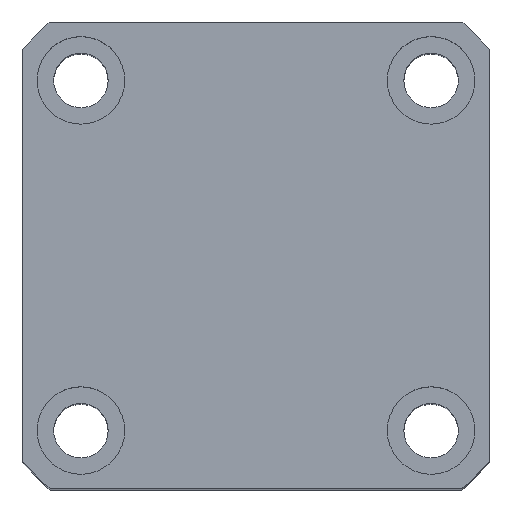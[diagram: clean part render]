
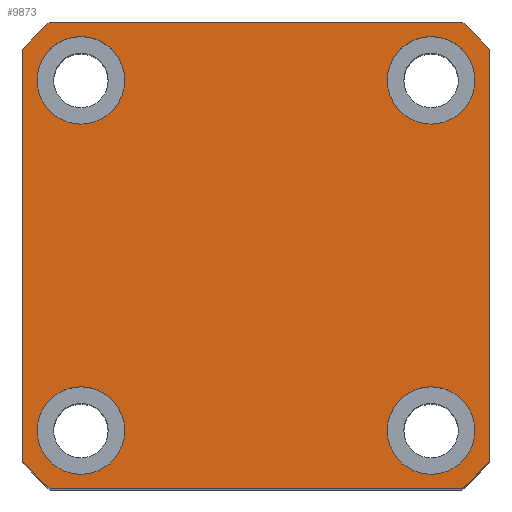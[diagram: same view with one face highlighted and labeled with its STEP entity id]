
A CAD part, top view. The second image highlights one B-rep face of the part: STEP entity #9873.
In plain terms, the highlighted planar face has unit normal (0, 0, 1) as drawn and (1, 0, 0) by its records, which use the part's own axes.
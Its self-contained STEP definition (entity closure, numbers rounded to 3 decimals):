
#243 = VERTEX_POINT ( 'NONE', #9890 ) ;
#287 = DIRECTION ( 'NONE',  ( 0., 0., -1. ) ) ;
#291 = DIRECTION ( 'NONE',  ( 0., 0., -1. ) ) ;
#301 = LINE ( 'NONE', #5233, #2763 ) ;
#485 = EDGE_CURVE ( 'NONE', #8120, #2723, #1912, .T. ) ;
#510 = DIRECTION ( 'NONE',  ( 0., 0., -1. ) ) ;
#535 = DIRECTION ( 'NONE',  ( 1., 0., 0. ) ) ;
#569 = CARTESIAN_POINT ( 'NONE',  ( 65., 0., 0. ) ) ;
#718 = CARTESIAN_POINT ( 'NONE',  ( 65., 0., 0. ) ) ;
#775 = DIRECTION ( 'NONE',  ( 1., 0., 0. ) ) ;
#791 = VERTEX_POINT ( 'NONE', #6005 ) ;
#851 = LINE ( 'NONE', #9205, #6912 ) ;
#1116 = FACE_BOUND ( 'NONE', #9369, .T. ) ;
#1252 = CIRCLE ( 'NONE', #2828, 32. ) ;
#1346 = CARTESIAN_POINT ( 'NONE',  ( 65., -18., -18. ) ) ;
#1374 = AXIS2_PLACEMENT_3D ( 'NONE', #7546, #2624, #8386 ) ;
#1424 = VECTOR ( 'NONE', #3451, 1000. ) ;
#1518 = VERTEX_POINT ( 'NONE', #4589 ) ;
#1549 = DIRECTION ( 'NONE',  ( 0., 0., -1. ) ) ;
#1581 = EDGE_CURVE ( 'NONE', #7810, #8371, #1252, .T. ) ;
#1646 = CARTESIAN_POINT ( 'NONE',  ( 65., 0., 0. ) ) ;
#1681 = DIRECTION ( 'NONE',  ( 0., 1., 0. ) ) ;
#1723 = CARTESIAN_POINT ( 'NONE',  ( 65., 24., -21.166 ) ) ;
#1795 = VERTEX_POINT ( 'NONE', #3262 ) ;
#1806 = ORIENTED_EDGE ( 'NONE', *, *, #7881, .F. ) ;
#1900 = EDGE_CURVE ( 'NONE', #6026, #6029, #5456, .T. ) ;
#1912 = CIRCLE ( 'NONE', #5257, 4.5 ) ;
#1930 = PLANE ( 'NONE',  #8015 ) ;
#2079 = CARTESIAN_POINT ( 'NONE',  ( 65., -18., -13.5 ) ) ;
#2192 = DIRECTION ( 'NONE',  ( 0., 0., -1. ) ) ;
#2307 = VERTEX_POINT ( 'NONE', #8424 ) ;
#2448 = CARTESIAN_POINT ( 'NONE',  ( 65., -18., -18. ) ) ;
#2492 = DIRECTION ( 'NONE',  ( 0., 0., -1. ) ) ;
#2541 = CARTESIAN_POINT ( 'NONE',  ( 65., 18., 13.5 ) ) ;
#2624 = DIRECTION ( 'NONE',  ( 1., 0., 0. ) ) ;
#2680 = CIRCLE ( 'NONE', #1374, 4.5 ) ;
#2723 = VERTEX_POINT ( 'NONE', #9774 ) ;
#2763 = VECTOR ( 'NONE', #9393, 1000. ) ;
#2828 = AXIS2_PLACEMENT_3D ( 'NONE', #569, #535, #510 ) ;
#3150 = ORIENTED_EDGE ( 'NONE', *, *, #6594, .T. ) ;
#3262 = CARTESIAN_POINT ( 'NONE',  ( 65., 18., -22.5 ) ) ;
#3265 = DIRECTION ( 'NONE',  ( 0., 0., -1. ) ) ;
#3289 = FACE_BOUND ( 'NONE', #6603, .T. ) ;
#3409 = EDGE_LOOP ( 'NONE', ( #6743, #6595 ) ) ;
#3451 = DIRECTION ( 'NONE',  ( 0., -1., 0. ) ) ;
#3536 = ORIENTED_EDGE ( 'NONE', *, *, #4302, .T. ) ;
#3586 = CARTESIAN_POINT ( 'NONE',  ( 65., 0., 0. ) ) ;
#3800 = EDGE_CURVE ( 'NONE', #5328, #2307, #9900, .T. ) ;
#3934 = EDGE_CURVE ( 'NONE', #2307, #791, #7422, .T. ) ;
#3970 = CARTESIAN_POINT ( 'NONE',  ( 65., 18., -18. ) ) ;
#3999 = EDGE_CURVE ( 'NONE', #6439, #7810, #851, .T. ) ;
#4302 = EDGE_CURVE ( 'NONE', #9144, #4486, #8598, .T. ) ;
#4313 = ORIENTED_EDGE ( 'NONE', *, *, #3999, .T. ) ;
#4394 = DIRECTION ( 'NONE',  ( 0., 0., -1. ) ) ;
#4486 = VERTEX_POINT ( 'NONE', #9034 ) ;
#4589 = CARTESIAN_POINT ( 'NONE',  ( 65., 18., -13.5 ) ) ;
#4695 = CARTESIAN_POINT ( 'NONE',  ( 65., 21.166, 24. ) ) ;
#4717 = VERTEX_POINT ( 'NONE', #2079 ) ;
#4772 = DIRECTION ( 'NONE',  ( 0., 0., -1. ) ) ;
#4832 = AXIS2_PLACEMENT_3D ( 'NONE', #1646, #7418, #2492 ) ;
#4861 = DIRECTION ( 'NONE',  ( 0., 0., -1. ) ) ;
#4915 = ORIENTED_EDGE ( 'NONE', *, *, #6852, .T. ) ;
#4933 = DIRECTION ( 'NONE',  ( 1., 0., 0. ) ) ;
#4966 = CARTESIAN_POINT ( 'NONE',  ( 65., 18., 18. ) ) ;
#5015 = CARTESIAN_POINT ( 'NONE',  ( 65., 24., -24. ) ) ;
#5020 = CIRCLE ( 'NONE', #9736, 32. ) ;
#5185 = DIRECTION ( 'NONE',  ( 1., 0., 0. ) ) ;
#5190 = DIRECTION ( 'NONE',  ( 1., 0., 0. ) ) ;
#5233 = CARTESIAN_POINT ( 'NONE',  ( 65., -24., 24. ) ) ;
#5257 = AXIS2_PLACEMENT_3D ( 'NONE', #4966, #4933, #4861 ) ;
#5328 = VERTEX_POINT ( 'NONE', #8413 ) ;
#5441 = FACE_BOUND ( 'NONE', #3409, .T. ) ;
#5456 = CIRCLE ( 'NONE', #8340, 4.5 ) ;
#5498 = CIRCLE ( 'NONE', #9671, 4.5 ) ;
#5562 = ORIENTED_EDGE ( 'NONE', *, *, #9705, .F. ) ;
#5673 = CARTESIAN_POINT ( 'NONE',  ( 65., 0., 0. ) ) ;
#5699 = FACE_BOUND ( 'NONE', #10157, .T. ) ;
#5964 = ORIENTED_EDGE ( 'NONE', *, *, #485, .F. ) ;
#6005 = CARTESIAN_POINT ( 'NONE',  ( 65., 21.166, -24. ) ) ;
#6026 = VERTEX_POINT ( 'NONE', #7836 ) ;
#6029 = VERTEX_POINT ( 'NONE', #8679 ) ;
#6089 = ORIENTED_EDGE ( 'NONE', *, *, #9558, .F. ) ;
#6101 = CIRCLE ( 'NONE', #10046, 4.5 ) ;
#6183 = CARTESIAN_POINT ( 'NONE',  ( 65., 24., 21.166 ) ) ;
#6329 = CARTESIAN_POINT ( 'NONE',  ( 65., -21.166, 24. ) ) ;
#6400 = DIRECTION ( 'NONE',  ( 0., 0., -1. ) ) ;
#6432 = DIRECTION ( 'NONE',  ( 1., 0., 0. ) ) ;
#6439 = VERTEX_POINT ( 'NONE', #1723 ) ;
#6454 = DIRECTION ( 'NONE',  ( 1., 0., 0. ) ) ;
#6459 = ORIENTED_EDGE ( 'NONE', *, *, #7632, .F. ) ;
#6516 = DIRECTION ( 'NONE',  ( 0., 0., -1. ) ) ;
#6523 = AXIS2_PLACEMENT_3D ( 'NONE', #3970, #9764, #4772 ) ;
#6594 = EDGE_CURVE ( 'NONE', #4486, #5328, #301, .T. ) ;
#6595 = ORIENTED_EDGE ( 'NONE', *, *, #1900, .F. ) ;
#6603 = EDGE_LOOP ( 'NONE', ( #1806, #9364 ) ) ;
#6702 = CIRCLE ( 'NONE', #10444, 4.5 ) ;
#6743 = ORIENTED_EDGE ( 'NONE', *, *, #10121, .F. ) ;
#6852 = EDGE_CURVE ( 'NONE', #791, #6439, #5020, .T. ) ;
#6864 = EDGE_CURVE ( 'NONE', #4717, #243, #7237, .T. ) ;
#6912 = VECTOR ( 'NONE', #10050, 1000. ) ;
#7110 = DIRECTION ( 'NONE',  ( 1., 0., 0. ) ) ;
#7145 = CARTESIAN_POINT ( 'NONE',  ( 65., -18., 18. ) ) ;
#7237 = CIRCLE ( 'NONE', #8620, 4.5 ) ;
#7261 = ORIENTED_EDGE ( 'NONE', *, *, #3934, .T. ) ;
#7418 = DIRECTION ( 'NONE',  ( 1., 0., 0. ) ) ;
#7422 = LINE ( 'NONE', #5015, #9385 ) ;
#7525 = EDGE_CURVE ( 'NONE', #8371, #9144, #7756, .T. ) ;
#7546 = CARTESIAN_POINT ( 'NONE',  ( 65., 18., 18. ) ) ;
#7632 = EDGE_CURVE ( 'NONE', #1518, #1795, #6702, .T. ) ;
#7756 = LINE ( 'NONE', #9230, #1424 ) ;
#7810 = VERTEX_POINT ( 'NONE', #6183 ) ;
#7836 = CARTESIAN_POINT ( 'NONE',  ( 65., -18., 22.5 ) ) ;
#7881 = EDGE_CURVE ( 'NONE', #243, #4717, #5498, .T. ) ;
#8015 = AXIS2_PLACEMENT_3D ( 'NONE', #3586, #9370, #4394 ) ;
#8120 = VERTEX_POINT ( 'NONE', #2541 ) ;
#8212 = DIRECTION ( 'NONE',  ( 1., 0., 0. ) ) ;
#8340 = AXIS2_PLACEMENT_3D ( 'NONE', #7145, #6432, #6400 ) ;
#8371 = VERTEX_POINT ( 'NONE', #4695 ) ;
#8386 = DIRECTION ( 'NONE',  ( 0., 0., -1. ) ) ;
#8413 = CARTESIAN_POINT ( 'NONE',  ( 65., -24., -21.166 ) ) ;
#8424 = CARTESIAN_POINT ( 'NONE',  ( 65., -21.166, -24. ) ) ;
#8598 = CIRCLE ( 'NONE', #4832, 32. ) ;
#8620 = AXIS2_PLACEMENT_3D ( 'NONE', #2448, #8212, #3265 ) ;
#8679 = CARTESIAN_POINT ( 'NONE',  ( 65., -18., 13.5 ) ) ;
#8759 = EDGE_LOOP ( 'NONE', ( #7261, #4915, #4313, #10644, #9871, #3536, #3150, #8955 ) ) ;
#8955 = ORIENTED_EDGE ( 'NONE', *, *, #3800, .T. ) ;
#8956 = AXIS2_PLACEMENT_3D ( 'NONE', #718, #6454, #1549 ) ;
#9034 = CARTESIAN_POINT ( 'NONE',  ( 65., -24., 21.166 ) ) ;
#9144 = VERTEX_POINT ( 'NONE', #6329 ) ;
#9205 = CARTESIAN_POINT ( 'NONE',  ( 65., 24., 24. ) ) ;
#9230 = CARTESIAN_POINT ( 'NONE',  ( 65., 24., 24. ) ) ;
#9364 = ORIENTED_EDGE ( 'NONE', *, *, #6864, .F. ) ;
#9369 = EDGE_LOOP ( 'NONE', ( #5964, #5562 ) ) ;
#9370 = DIRECTION ( 'NONE',  ( 1., 0., 0. ) ) ;
#9385 = VECTOR ( 'NONE', #1681, 1000. ) ;
#9393 = DIRECTION ( 'NONE',  ( 0., 0., -1. ) ) ;
#9558 = EDGE_CURVE ( 'NONE', #1795, #1518, #9767, .T. ) ;
#9630 = FACE_OUTER_BOUND ( 'NONE', #8759, .T. ) ;
#9671 = AXIS2_PLACEMENT_3D ( 'NONE', #1346, #7110, #2192 ) ;
#9705 = EDGE_CURVE ( 'NONE', #2723, #8120, #2680, .T. ) ;
#9736 = AXIS2_PLACEMENT_3D ( 'NONE', #5673, #775, #6516 ) ;
#9764 = DIRECTION ( 'NONE',  ( 1., 0., 0. ) ) ;
#9767 = CIRCLE ( 'NONE', #6523, 4.5 ) ;
#9774 = CARTESIAN_POINT ( 'NONE',  ( 65., 18., 22.5 ) ) ;
#9871 = ORIENTED_EDGE ( 'NONE', *, *, #7525, .T. ) ;
#9873 = ADVANCED_FACE ( 'NONE', ( #3289, #5441, #5699, #1116, #9630 ), #1930, .T. ) ;
#9890 = CARTESIAN_POINT ( 'NONE',  ( 65., -18., -22.5 ) ) ;
#9900 = CIRCLE ( 'NONE', #8956, 32. ) ;
#10046 = AXIS2_PLACEMENT_3D ( 'NONE', #10188, #5190, #291 ) ;
#10050 = DIRECTION ( 'NONE',  ( 0., 0., 1. ) ) ;
#10121 = EDGE_CURVE ( 'NONE', #6029, #6026, #6101, .T. ) ;
#10157 = EDGE_LOOP ( 'NONE', ( #6089, #6459 ) ) ;
#10184 = CARTESIAN_POINT ( 'NONE',  ( 65., 18., -18. ) ) ;
#10188 = CARTESIAN_POINT ( 'NONE',  ( 65., -18., 18. ) ) ;
#10444 = AXIS2_PLACEMENT_3D ( 'NONE', #10184, #5185, #287 ) ;
#10644 = ORIENTED_EDGE ( 'NONE', *, *, #1581, .T. ) ;
